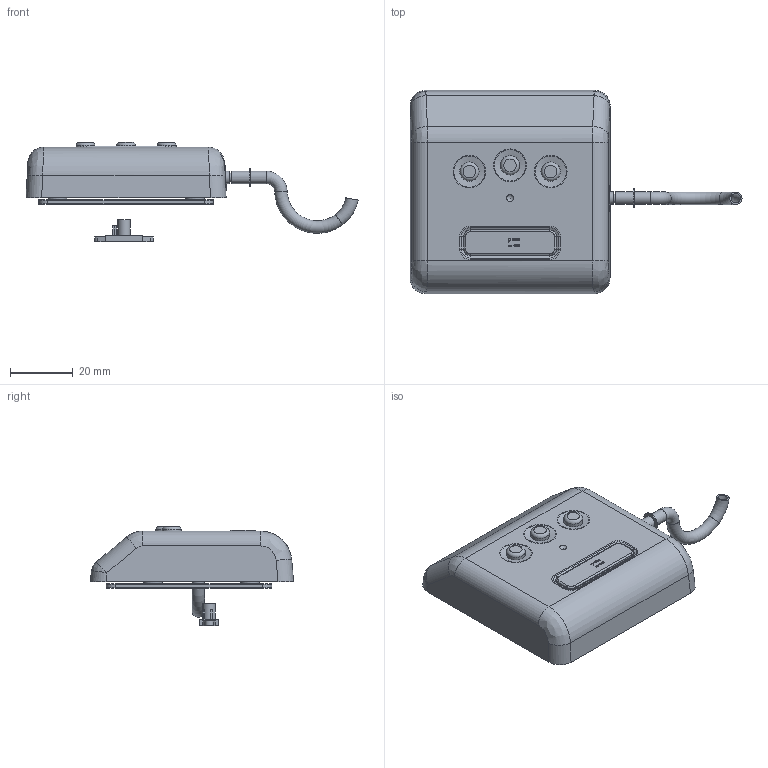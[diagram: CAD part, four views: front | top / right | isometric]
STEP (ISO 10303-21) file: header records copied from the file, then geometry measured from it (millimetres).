
FILE_DESCRIPTION(/* description */ (''),/* implementation_level */ '2;1');
FILE_NAME(/* name */ '教师组样题6.stp',/* time_stamp */ '2023-04-15T10:50:46+08:00',/* author */ (''),/* organization */ (''),/* preprocessor_version */ 'ST-DEVELOPER v16.7',/* originating_system */ 'SIEMENS PLM Software NX 12.0',/* authorisation */ '');
FILE_SCHEMA (('AUTOMOTIVE_DESIGN { 1 0 10303 214 3 1 1 1 }'));
Length unit declared in the file: millimetre
Products named in the file (1): 教师组样题6_stp
Bounding box: 106.21 x 65.02 x 31.7 mm (x, y, z)
Volume: 19717.3 mm3; surface area: 23923.8 mm2
Topology: 10 solids, 10 shells, 673 faces, 1678 edges, 1089 vertices
Faces by surface type: plane 289, extrusion 202, cylinder 107, torus 36, bspline 26, cone 12, sphere 1
Full cylindrical faces by diameter (mm): 0.589 x1, 1.2 x1, 1.5 x2, 3 x8, 4 x6, 4.003 x1, 4.348 x1, 6 x7, 6.052 x1, 6.2 x2, 8.3 x1
Entity records: 24686 total; most frequent: CARTESIAN_POINT 7140, ORIENTED_EDGE 3184, DIRECTION 2516, EDGE_CURVE 1592, VECTOR 1080, VERTEX_POINT 1066, LINE 878, EDGE_LOOP 826
